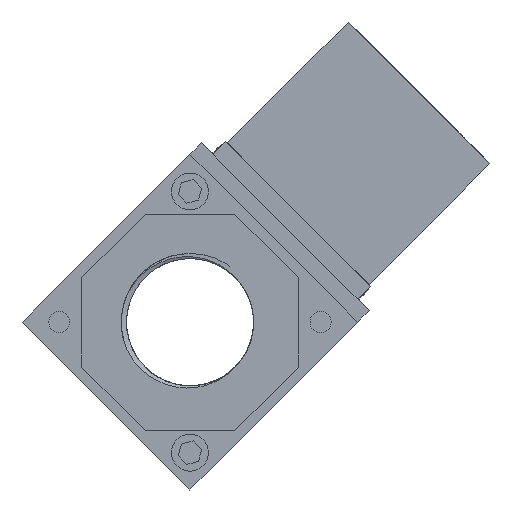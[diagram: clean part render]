
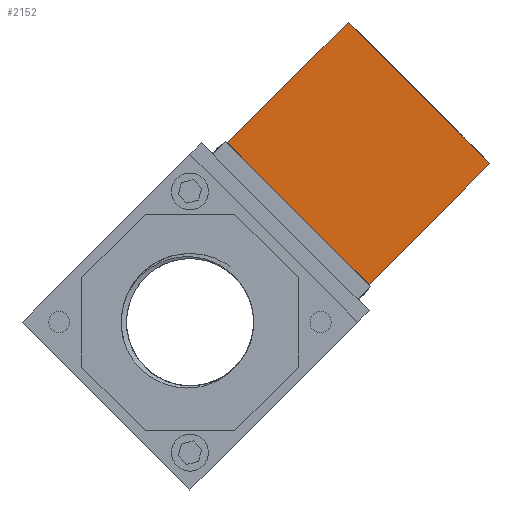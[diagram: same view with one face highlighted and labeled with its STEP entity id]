
A CAD part, left-side view. The second image highlights one B-rep face of the part: STEP entity #2152.
In plain terms, the highlighted planar face has unit normal (-1, 0, 0) as drawn and (1, 0, 0) by its records, which use the part's own axes.
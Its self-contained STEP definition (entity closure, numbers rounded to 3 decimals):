
#1608 = CARTESIAN_POINT ( 'NONE',  ( 57., 32.4, 38. ) ) ;
#2152 = ADVANCED_FACE ( 'NONE', ( #16138 ), #8140, .F. ) ;
#2353 = DIRECTION ( 'NONE',  ( 0., 1., 0. ) ) ;
#3094 = DIRECTION ( 'NONE',  ( 0., 0., 1. ) ) ;
#3470 = EDGE_CURVE ( 'NONE', #10693, #16524, #20677, .T. ) ;
#4673 = CARTESIAN_POINT ( 'NONE',  ( 57., 32.4, 38. ) ) ;
#5461 = VECTOR ( 'NONE', #2353, 1000. ) ;
#5559 = VERTEX_POINT ( 'NONE', #18344 ) ;
#5703 = CARTESIAN_POINT ( 'NONE',  ( 57., 0., 38. ) ) ;
#6260 = ORIENTED_EDGE ( 'NONE', *, *, #17552, .F. ) ;
#8044 = DIRECTION ( 'NONE',  ( 0., 0., -1. ) ) ;
#8140 = PLANE ( 'NONE',  #18364 ) ;
#8769 = DIRECTION ( 'NONE',  ( 0., 0., -1. ) ) ;
#9203 = VECTOR ( 'NONE', #8769, 1000. ) ;
#9381 = VECTOR ( 'NONE', #8044, 1000. ) ;
#10693 = VERTEX_POINT ( 'NONE', #1608 ) ;
#11092 = DIRECTION ( 'NONE',  ( -1., 0., 0. ) ) ;
#11199 = CARTESIAN_POINT ( 'NONE',  ( 57., 0., 38. ) ) ;
#11492 = VERTEX_POINT ( 'NONE', #11939 ) ;
#11939 = CARTESIAN_POINT ( 'NONE',  ( 57., 0., 38. ) ) ;
#13124 = EDGE_LOOP ( 'NONE', ( #18116, #19990, #6260, #19446 ) ) ;
#13622 = CARTESIAN_POINT ( 'NONE',  ( 57., 0., 38. ) ) ;
#14866 = CARTESIAN_POINT ( 'NONE',  ( 57., 0., 0. ) ) ;
#15280 = LINE ( 'NONE', #14866, #17475 ) ;
#15401 = LINE ( 'NONE', #13622, #9203 ) ;
#16138 = FACE_OUTER_BOUND ( 'NONE', #13124, .T. ) ;
#16192 = EDGE_CURVE ( 'NONE', #5559, #16524, #15280, .T. ) ;
#16524 = VERTEX_POINT ( 'NONE', #18070 ) ;
#16646 = DIRECTION ( 'NONE',  ( 0., 1., 0. ) ) ;
#17475 = VECTOR ( 'NONE', #16646, 1000. ) ;
#17552 = EDGE_CURVE ( 'NONE', #11492, #10693, #17931, .T. ) ;
#17596 = EDGE_CURVE ( 'NONE', #11492, #5559, #15401, .T. ) ;
#17931 = LINE ( 'NONE', #5703, #5461 ) ;
#18070 = CARTESIAN_POINT ( 'NONE',  ( 57., 32.4, 0. ) ) ;
#18116 = ORIENTED_EDGE ( 'NONE', *, *, #16192, .T. ) ;
#18344 = CARTESIAN_POINT ( 'NONE',  ( 57., 0., 0. ) ) ;
#18364 = AXIS2_PLACEMENT_3D ( 'NONE', #11199, #11092, #3094 ) ;
#19446 = ORIENTED_EDGE ( 'NONE', *, *, #17596, .T. ) ;
#19990 = ORIENTED_EDGE ( 'NONE', *, *, #3470, .F. ) ;
#20677 = LINE ( 'NONE', #4673, #9381 ) ;
